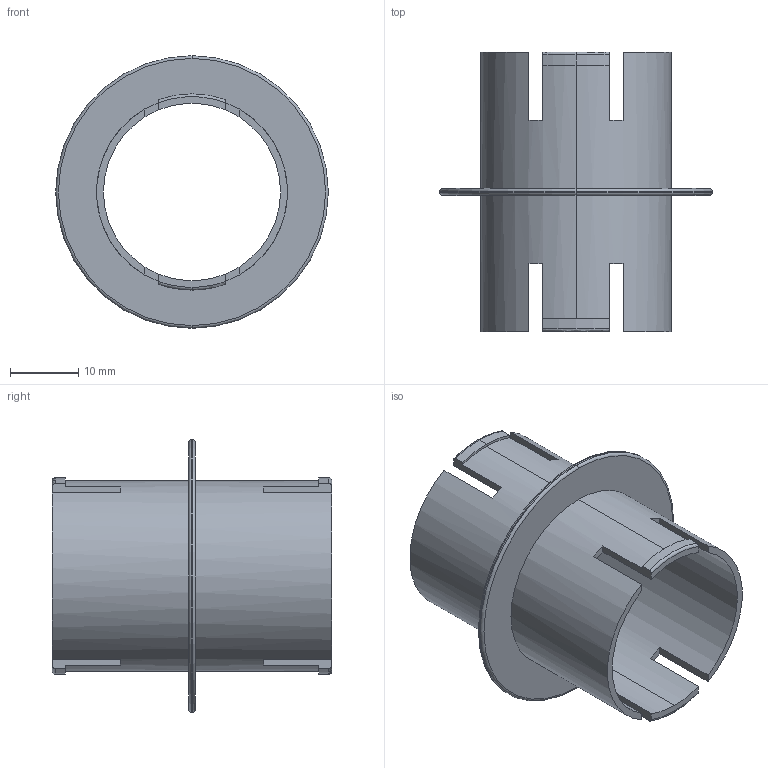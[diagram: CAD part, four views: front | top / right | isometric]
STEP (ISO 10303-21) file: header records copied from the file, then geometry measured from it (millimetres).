
FILE_DESCRIPTION (( 'STEP AP214' ), '1' );
FILE_NAME ('ñîåäèíèòåëü_öåíòð.STEP', '2025-02-25T12:21:41', ( '' ), ( '' ), 'SwSTEP 2.0', 'SolidWorks 2023', '' );
FILE_SCHEMA (( 'AUTOMOTIVE_DESIGN' ));
Length unit declared in the file: millimetre
Products named in the file (1): соединитель_центр
Bounding box: 40 x 41 x 40 mm (x, y, z)
Volume: 3960.8 mm3; surface area: 8254.8 mm2
Topology: 1 solids, 1 shells, 62 faces, 174 edges, 114 vertices
Faces by surface type: plane 38, cylinder 14, torus 10
Entity records: 2077 total; most frequent: CARTESIAN_POINT 391, DIRECTION 368, ORIENTED_EDGE 348, EDGE_CURVE 174, AXIS2_PLACEMENT_3D 139, VERTEX_POINT 114, LINE 90, VECTOR 90
